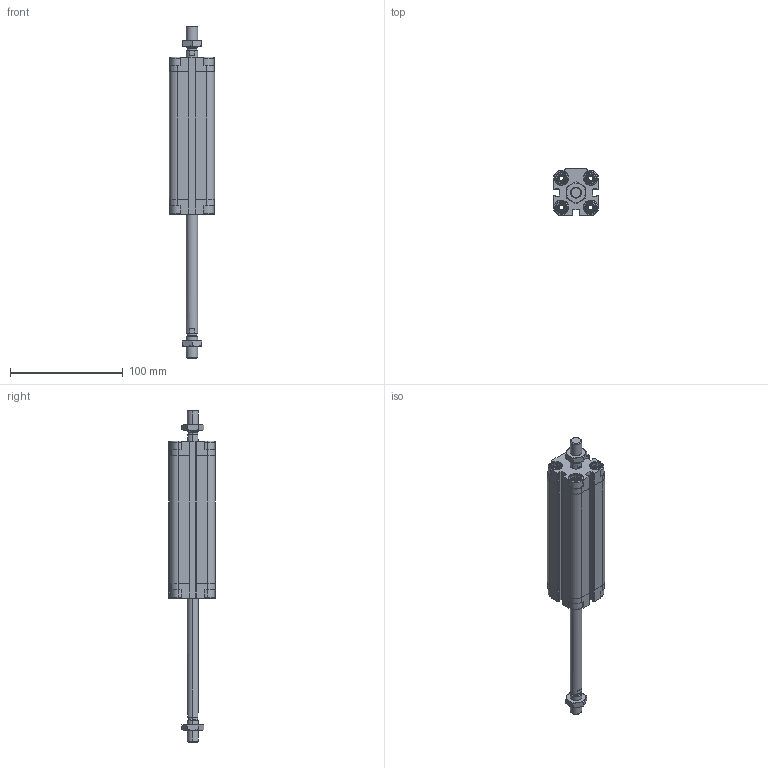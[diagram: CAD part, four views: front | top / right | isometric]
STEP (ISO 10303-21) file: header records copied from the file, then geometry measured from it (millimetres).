
FILE_DESCRIPTION (( 'STEP AP203' ), '1' );
FILE_NAME ('CDVU25-100M-P.STEP', '2020-07-21T15:12:25', ( '' ), ( '' ), 'SwSTEP 2.0', 'SolidWorks 2019', '' );
FILE_SCHEMA (( 'CONFIG_CONTROL_DESIGN' ));
Length unit declared in the file: millimetre
Products named in the file (1): CDVU25-100M-P
Bounding box: 40 x 41.5 x 294.5 mm (x, y, z)
Volume: 154298 mm3; surface area: 66681.1 mm2
Topology: 4 solids, 4 shells, 632 faces, 1650 edges, 1062 vertices
Faces by surface type: plane 372, cylinder 180, cone 64, torus 16
Entity records: 20069 total; most frequent: CARTESIAN_POINT 4485, ORIENTED_EDGE 3292, DIRECTION 3152, EDGE_CURVE 1646, AXIS2_PLACEMENT_3D 1089, VERTEX_POINT 1062, VECTOR 974, LINE 974
